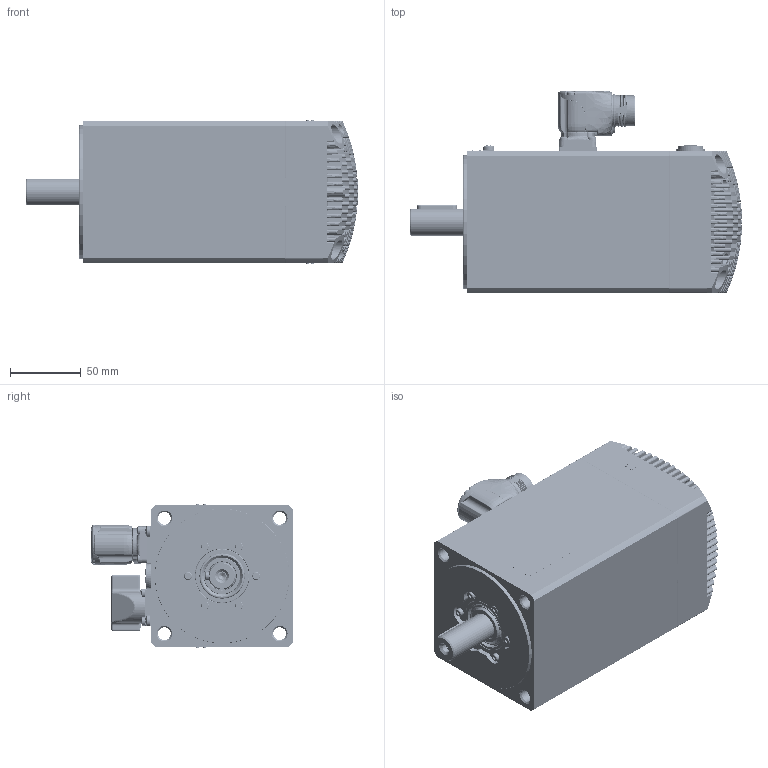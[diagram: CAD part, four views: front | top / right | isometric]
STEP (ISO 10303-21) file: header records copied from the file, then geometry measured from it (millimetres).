
FILE_DESCRIPTION((''),'2;1');
FILE_NAME('32190015747_ASM','2022-04-13T09:47:41',('gabrielec'),(''),'CREO PARAMETRIC BY PTC INC, 2021304','CREO PARAMETRIC BY PTC INC, 2021304','');
FILE_SCHEMA(('AP242_MANAGED_MODEL_BASED_3D_ENGINEERING_MIM_LF { 1 0 10303 442 1 1 4 }'));
Products named in the file (38): 52580N-0; 32149915564_ASM; 22320015080; 22320015080_ASM; 32050015015_ASM; 32060015581_ASM; 51941N-1; 32090015035_ASM; NRG_001; M3X16_GBT70-1; GB_T862_1; M4X8_GBT818_CU; 51093N-0; 32159915248_ASM; 22160015160; MENTOR-1292_9013; CEMBRE_FD9; CEMBRE_2053M16N; 32150015177_ASM; PHOENIX-1605586; 33000015098_AF18_ASM; UNI7687_M3X8_INOX; CAN_OPEN; 33200203857_AF9_ASM; 31500203857_AF9_ASM; 50941N-0; UNI7687_M3X6_INOX; UNI5931_M3X6_INOX; 22210015021; 32150015175_ASM; UNI5931_M4X16; LIP_SEAL_TW05; 22250015024; 22250015126; 43500000229; 43500000050; L_6X6-28_UNI6604; 32190015747_ASM
Assembly tree (65 placements, depth 7):
  32190015747_ASM
    32159915248_ASM
      32149915564_ASM
        52580N-0
      32090015035_ASM
        32060015581_ASM
          32050015015_ASM
            22320015080_ASM
              22320015080
        51941N-1
      NRG_001  x6
      M3X16_GBT70-1  x6
      GB_T862_1  x2
      M4X8_GBT818_CU  x2
      51093N-0
    32150015177_ASM
      22160015160
      MENTOR-1292_9013  x8
      CEMBRE_FD9
      CEMBRE_2053M16N
    33000015098_AF18_ASM
      PHOENIX-1605586
    UNI7687_M3X8_INOX  x4
    31500203857_AF9_ASM
      33200203857_AF9_ASM
        CAN_OPEN
    50941N-0  x2
    UNI7687_M3X6_INOX  x3
    UNI5931_M3X6_INOX
    32150015175_ASM
      22210015021
    UNI5931_M4X16  x4
    LIP_SEAL_TW05
    22250015024
    22250015126
    43500000229
    43500000050
    L_6X6-28_UNI6604
Bounding box: 234 x 142.41 x 100.8 mm (x, y, z)
Volume: 719191.2 mm3; surface area: 349101.1 mm2
Topology: 74 solids, 101 shells, 4646 faces, 11674 edges, 7403 vertices
Faces by surface type: plane 1599, cylinder 1143, cone 671, bspline 612, torus 356, sphere 243, revolution 11, extrusion 11
Entity records: 202087 total; most frequent: CARTESIAN_POINT 68358, ORIENTED_EDGE 20656, DIRECTION 18850, PRESENTATION_STYLE_ASSIGNMENT 10824, STYLED_ITEM 10410, EDGE_CURVE 10381, CURVE_STYLE 10337, AXIS2_PLACEMENT_3D 7328
